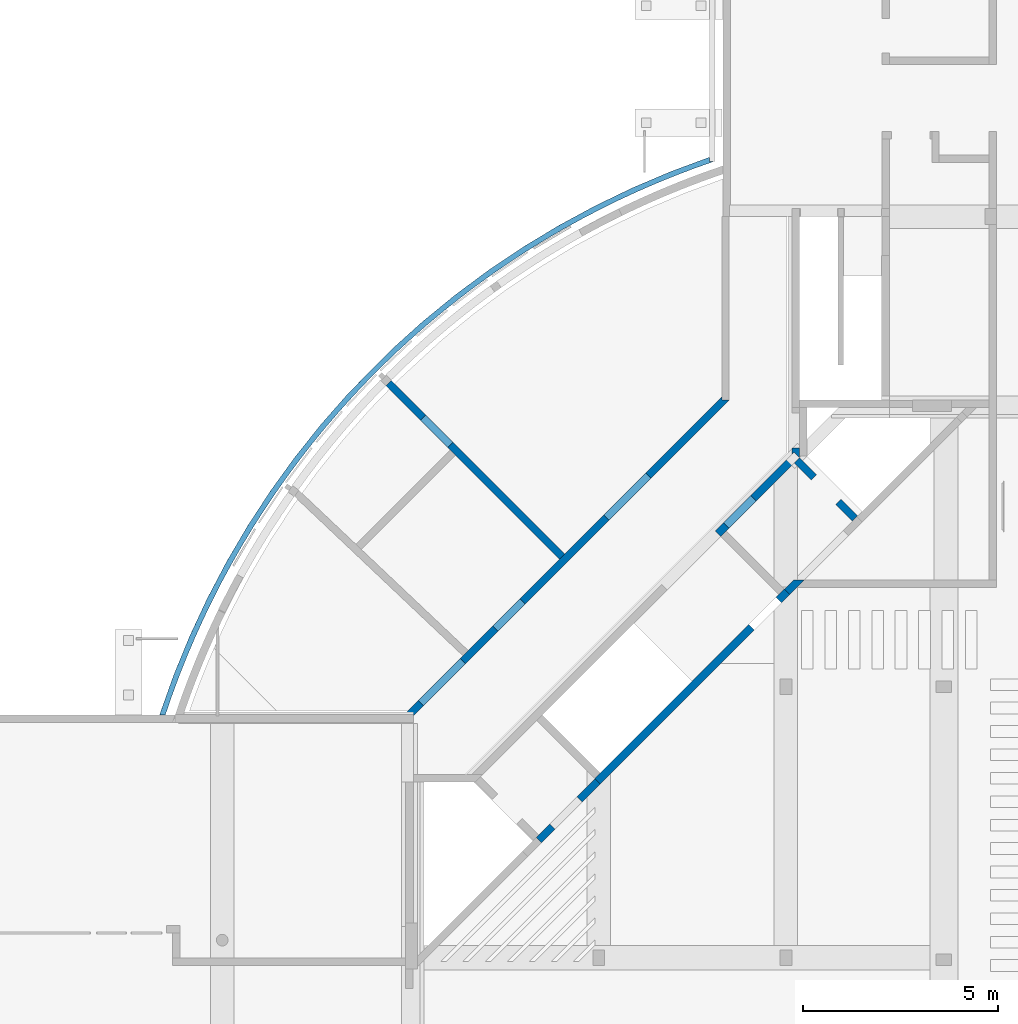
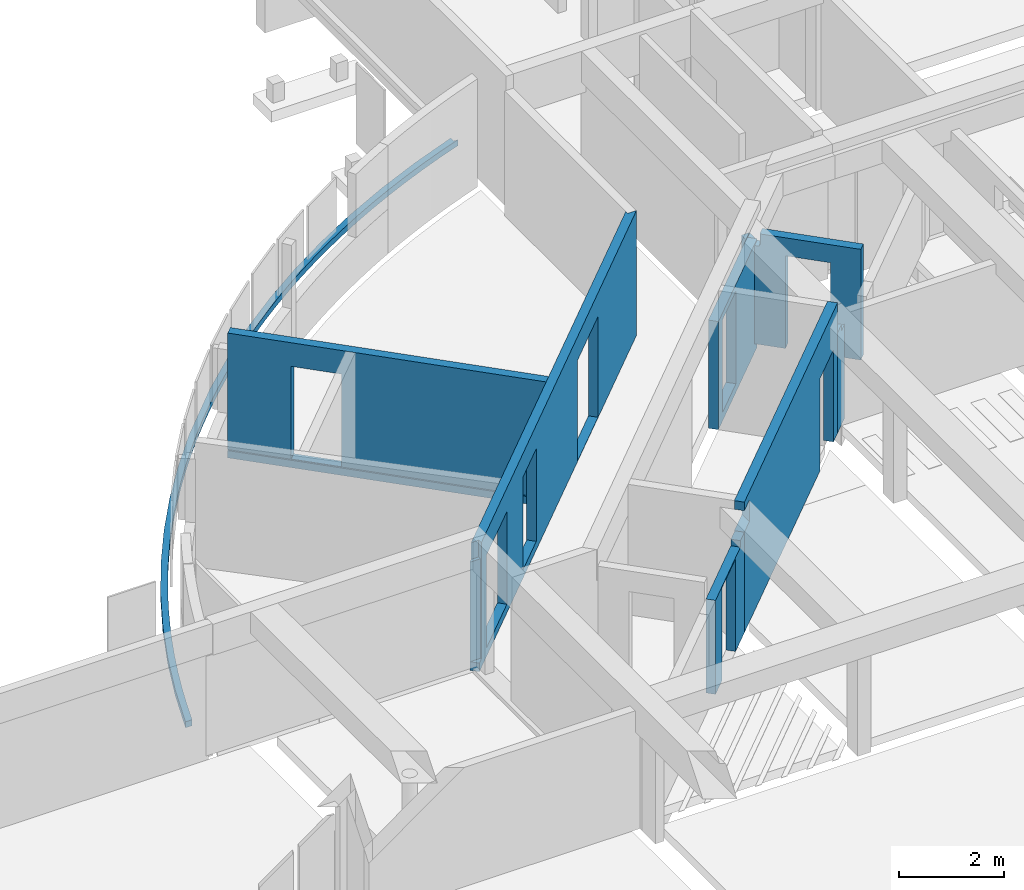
# One storey, part 20 of 22: 9 walls.
"""IFC4X3_ADD2 building model written with IfcOpenShell, lengths in millimetres."""

from ifc_helpers import new_model, si_unit, direction, frame, origin_with_axes, place, context, subcontext, project, spatial, polygons, element, save


model = new_model("IFC4X3_ADD2")

# Units and contexts
model_context = context("Model", 3, precision=1e-05, world=origin_with_axes(), true_north=direction((0.0, 1.0)))
body_context = subcontext(model_context, "Body", "Model", "MODEL_VIEW")
ifc_project = project(units=[si_unit("LENGTHUNIT", "METRE", prefix="MILLI"), si_unit("AREAUNIT", "SQUARE_METRE"), si_unit("VOLUMEUNIT", "CUBIC_METRE"), si_unit("PLANEANGLEUNIT", "RADIAN"), si_unit("TIMEUNIT", "SECOND"), si_unit("MASSUNIT", "GRAM")], contexts=[model_context])

# Site, building, storey
site_placement = place(None, origin_with_axes())
site = spatial("IfcSite", under=ifc_project, at=site_placement, Name="Site", CompositionType="ELEMENT")
building_placement = place(site_placement, origin_with_axes())
building = spatial("IfcBuilding", under=site, at=building_placement, Name="IFC Building Story")
storey_placement = place(building_placement, frame((0.0, 0.0, -3240.0), z_axis=(0.0, 0.0, 1.0), x_axis=(1.0, 0.0, 0.0)))
storey = spatial("IfcBuildingStorey", under=building, at=storey_placement, Name="K10", Elevation=-3240.0)

# Walls
wall_1_placement = place(storey_placement, frame((0.0, 0.0, 3240.0), z_axis=(0.0, 0.0, 1.0), x_axis=(1.0, 0.0, 0.0)))
element("IfcWall", 1, at=wall_1_placement, inside=storey, Name="Basic Wall:BB_XX_Wand uit beton, 200 mm", ObjectType="Basic Wall:BB_XX_Wand uit beton, 200 mm", PredefinedType="SOLIDWALL", context=body_context, shape_type="Tessellation", body=[
    polygons([(-29092.66108187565, 33950.48466862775, -3240.0), (-29304.79311623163, 33738.35263427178, -3240.0), (-29304.79311623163, 33738.35263427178, -1090.0), (-30004.82882960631, 33038.3169208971, -1090.0), (-30004.82882960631, 33038.3169208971, -3240.0), (-33950.48466862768, 29092.66108187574, -3240.0), (-33950.48466862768, 29092.66108187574, -900.0), (-33809.06331239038, 29234.08243811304, -900.0), (-33553.14575050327, 29490.00000000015, -900.0), (-33553.14575050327, 29490.00000000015, -400.0), (-33809.06331239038, 29234.08243811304, -400.0), (-33950.48466862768, 29092.66108187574, -400.0), (-33950.48466862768, 29092.66108187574, -200.0), (-33809.06331239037, 29234.08243811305, -200.0), (-29234.08243811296, 33809.06331239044, -200.0), (-29092.66108187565, 33950.48466862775, -200.0), (-29163.37175999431, 33596.93127803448, -3240.0), (-28951.23972563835, 33809.06331239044, -3240.0), (-28951.23972563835, 33809.06331239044, -200.0), (-33809.06331239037, 28951.23972563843, -200.0), (-33809.06331239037, 28951.23972563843, -400.0), (-33549.99999999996, 29210.30303802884, -400.0), (-33549.99999999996, 29210.30303802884, -900.0), (-33809.06331239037, 28951.23972563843, -900.0), (-33809.06331239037, 28951.23972563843, -3240.0), (-29863.407473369, 32896.8955646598, -3240.0), (-29863.407473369, 32896.8955646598, -1090.0), (-29163.37175999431, 33596.93127803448, -1090.0), (-33549.99999999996, 29490.00000000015, -900.0), (-33549.99999999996, 29490.00000000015, -400.0)], [[[11, 12, 13]], [[11, 13, 14]], [[14, 10, 11]], [[10, 14, 4]], [[4, 9, 10]], [[4, 5, 6]], [[4, 6, 9]], [[6, 8, 9]], [[6, 7, 8]], [[14, 15, 4]], [[15, 16, 3]], [[15, 3, 4]], [[16, 1, 2]], [[16, 2, 3]], [[23, 24, 25]], [[28, 17, 18]], [[28, 18, 19]], [[19, 27, 28]], [[23, 25, 26]], [[23, 26, 27]], [[27, 19, 22]], [[27, 22, 23]], [[19, 20, 22]], [[20, 21, 22]], [[29, 30, 10, 9]], [[8, 7, 24]], [[8, 24, 23]], [[23, 29, 9]], [[23, 9, 8]], [[30, 29, 23, 22]], [[11, 10, 30]], [[11, 30, 22]], [[22, 21, 12]], [[22, 12, 11]], [[6, 25, 24, 7]], [[2, 1, 18, 17]], [[14, 13, 20]], [[20, 19, 15]], [[20, 15, 14]], [[19, 16, 15]], [[1, 16, 19, 18]], [[3, 2, 17, 28]], [[4, 3, 28, 27]], [[5, 4, 27, 26]], [[6, 5, 26, 25]], [[20, 13, 12, 21]]]),
])
wall_2_placement = place(storey_placement, frame((0.0, 0.0, 3240.0), z_axis=(0.0, 0.0, 1.0), x_axis=(1.0, 0.0, 0.0)))
element("IfcWall", 2, at=wall_2_placement, inside=storey, Name="Basic Wall:BB_XX_Wand uit beton, 200 mm", ObjectType="Basic Wall:BB_XX_Wand uit beton, 200 mm", PredefinedType="SOLIDWALL", context=body_context, shape_type="Tessellation", body=[
    polygons([(-28900.0, 37567.28377279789, -3440.0), (-28900.0, 37395.83694396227, -3440.0), (-28900.0, 37395.83694396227, -920.0), (-28900.0, 37537.25830019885, -920.0), (-28900.0, 37567.28377279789, -920.0), (-28700.0, 37312.99423148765, -3440.0), (-28700.0, 37359.99593411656, -3440.0), (-28700.0, 37567.28377279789, -3440.0), (-28700.0, 37567.28377279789, -950.0), (-28700.0, 37359.99593411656, -950.0), (-28700.0, 37312.99423148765, -950.0), (-28841.42135623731, 37454.41558772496, -3440.0), (-28869.97452740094, 37567.2837727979, -920.0), (-28728.55317116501, 37567.28377279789, -920.0), (-28728.553171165, 37567.28377279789, -950.0), (-28841.42135623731, 37454.41558772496, -950.0), (-28841.42135623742, 37454.41558772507, -920.0)], [[[4, 5, 1]], [[1, 2, 3]], [[1, 3, 4]], [[7, 8, 9]], [[7, 9, 10]], [[10, 11, 6]], [[10, 6, 7]], [[7, 6, 12]], [[12, 2, 1]], [[1, 8, 7]], [[1, 7, 12]], [[15, 9, 8]], [[8, 1, 13]], [[8, 13, 15]], [[13, 14, 15]], [[1, 5, 13]], [[16, 15, 14]], [[16, 14, 17]], [[16, 17, 3]], [[3, 2, 12]], [[3, 12, 16]], [[12, 6, 11, 16]], [[13, 5, 4]], [[4, 17, 14]], [[4, 14, 13]], [[4, 3, 17]], [[10, 9, 15]], [[10, 15, 16]], [[16, 11, 10]]]),
])
wall_3_placement = place(storey_placement, frame((0.0, 0.0, 3240.0), z_axis=(0.0, 0.0, 1.0), x_axis=(1.0, 0.0, 0.0)))
element("IfcWall", 3, at=wall_3_placement, inside=storey, Name="Basic Wall:BB_XX_Wand uit beton, 200 mm", ObjectType="Basic Wall:BB_XX_Wand uit beton, 200 mm", PredefinedType="SOLIDWALL", context=body_context, shape_type="Tessellation", body=[
    polygons([(-28841.42135623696, 37454.41558772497, -3440.0), (-28899.99999999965, 37395.83694396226, -3440.0), (-30860.42803484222, 35435.40890911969, -3440.0), (-30860.42803484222, 35435.40890911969, -920.0), (-28899.99999999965, 37395.83694396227, -920.0), (-28841.42135623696, 37454.41558772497, -920.0), (-28841.42135623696, 37454.41558772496, -950.0), (-30648.29600048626, 35647.54094347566, -1080.0), (-30648.29600048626, 35647.54094347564, -3240.0), (-29948.26028711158, 36347.57665685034, -3240.0), (-29948.26028711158, 36347.57665685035, -1080.0), (-28699.99999999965, 37312.99423148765, -3440.0), (-28699.99999999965, 37312.99423148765, -920.0), (-30719.00667860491, 35293.98755288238, -920.0), (-30719.00667860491, 35293.98755288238, -3440.0), (-30577.5853223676, 35435.40890911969, -3440.0), (-30506.87464424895, 35506.11958723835, -1080.0), (-29806.83893087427, 36206.15530061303, -1080.0), (-29806.83893087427, 36206.15530061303, -3240.0), (-30506.87464424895, 35506.11958723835, -3240.0)], [[[7, 1, 2]], [[7, 2, 5]], [[5, 6, 7]], [[11, 8, 4]], [[11, 4, 5]], [[5, 2, 10]], [[5, 10, 11]], [[2, 3, 10]], [[3, 9, 10]], [[3, 4, 8]], [[3, 8, 9]], [[20, 17, 16]], [[16, 19, 20]], [[19, 16, 12]], [[12, 13, 18]], [[12, 18, 19]], [[13, 14, 18]], [[14, 17, 18]], [[17, 14, 15]], [[17, 15, 16]], [[2, 1, 12]], [[16, 15, 3]], [[3, 2, 12]], [[3, 12, 16]], [[4, 3, 15, 14]], [[5, 4, 14]], [[5, 14, 13]], [[13, 6, 5]], [[7, 6, 13]], [[13, 12, 1]], [[13, 1, 7]], [[9, 8, 17, 20]], [[10, 9, 20, 19]], [[11, 10, 19, 18]], [[8, 11, 18, 17]]]),
])
wall_4_placement = place(storey_placement, frame((0.0, 0.0, 3240.0), z_axis=(0.0, 0.0, 1.0), x_axis=(1.0, 0.0, 0.0)))
element("IfcWall", 4, at=wall_4_placement, inside=storey, Name="Basic Wall:BB_03.09.24#05_Wand uit metselwerk_EI60, 190 mm", ObjectType="Basic Wall:BB_03.09.24#05_Wand uit metselwerk_EI60, 190 mm", PredefinedType="SOLIDWALL", context=body_context, shape_type="Tessellation", body=[
    polygons([(-28849.00768076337, 34179.99593411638, -3240.0), (-29085.59001406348, 33943.41360081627, -3240.0), (-29085.59001406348, 33943.41360081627, -900.0), (-28877.85071255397, 34151.15290232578, -900.0), (-28877.84443866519, 34151.146628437, -1049.99999999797), (-28849.00768076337, 34179.99593411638, -1049.99999999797), (-28951.23972563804, 33809.06331239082, -3240.0), (-28770.30710391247, 33989.99593411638, -3240.0), (-28580.30710391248, 34179.99593411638, -3240.0), (-28580.30710391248, 34179.99593411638, -1049.99999999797), (-28743.49415023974, 34016.79634001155, -1049.99999999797), (-28743.50042412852, 34016.80261390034, -900.0), (-28951.23972563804, 33809.06331239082, -900.0), (-28750.00000000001, 34023.30218977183, -900.0)], [[[5, 6, 1]], [[1, 2, 3]], [[1, 3, 5]], [[3, 4, 5]], [[11, 12, 8]], [[8, 9, 10]], [[8, 10, 11]], [[12, 13, 7]], [[12, 7, 8]], [[8, 7, 2]], [[8, 2, 1]], [[1, 9, 8]], [[3, 2, 7, 13]], [[14, 4, 3]], [[14, 3, 13]], [[13, 12, 14]], [[9, 1, 6, 10]], [[14, 12, 11]], [[11, 5, 4]], [[11, 4, 14]], [[5, 11, 10, 6]]]),
])
wall_5_placement = place(storey_placement, frame((0.0, 0.0, 3240.0), z_axis=(0.0, 0.0, 1.0), x_axis=(1.0, 0.0, 0.0)))
element("IfcWall", 5, at=wall_5_placement, inside=storey, Name="Basic Wall:BB_03.09.24#05_Wand uit metselwerk_EI60, 190 mm", ObjectType="Basic Wall:BB_03.09.24#05_Wand uit metselwerk_EI60, 190 mm", PredefinedType="SOLIDWALL", context=body_context, shape_type="Tessellation", body=[
    polygons([(-27349.90220101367, 35694.19585565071, -3240.0), (-27349.90220101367, 35694.19585565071, -660.0), (-28749.99999999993, 37094.29365463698, -660.0), (-28749.99999999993, 37094.29365463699, -900.0), (-28763.63961030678, 37107.93326494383, -900.0), (-28763.63961030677, 37107.93326494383, -950.0), (-28834.35028842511, 37178.64394306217, -950.0), (-28834.35028842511, 37178.64394306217, -3240.0), (-28403.49130498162, 36747.78495961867, -3240.0), (-28403.49130498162, 36747.78495961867, -1080.0), (-27774.16626972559, 36118.45992436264, -1080.0), (-27774.16626972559, 36118.45992436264, -3240.0), (-27215.55191258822, 35828.54614407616, -660.0), (-27215.55191258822, 35828.54614407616, -3240.0), (-27639.81598130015, 36252.81021278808, -3240.0), (-27639.81598130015, 36252.81021278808, -1080.0), (-28269.14101655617, 36882.13524804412, -1080.0), (-28269.14101655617, 36882.13524804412, -3240.0), (-28699.99999999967, 37312.99423148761, -3240.0), (-28699.99999999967, 37312.99423148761, -950.0), (-28629.28932188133, 37242.28355336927, -950.0), (-28629.28932188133, 37242.28355336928, -660.0), (-28749.99999999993, 37121.57287525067, -660.0), (-28749.99999999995, 37121.57287525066, -900.0)], [[[6, 7, 8]], [[8, 4, 6]], [[4, 5, 6]], [[11, 12, 1]], [[11, 1, 2]], [[2, 3, 10]], [[2, 10, 11]], [[4, 8, 9]], [[4, 9, 10]], [[10, 3, 4]], [[21, 22, 17]], [[17, 18, 19]], [[17, 19, 20]], [[17, 20, 21]], [[22, 13, 16]], [[22, 16, 17]], [[13, 14, 15]], [[13, 15, 16]], [[8, 19, 18, 9]], [[2, 1, 14, 13]], [[2, 13, 22]], [[2, 22, 23]], [[2, 23, 3]], [[19, 8, 7, 20]], [[10, 17, 16, 11]], [[11, 16, 15, 12]], [[17, 10, 9, 18]], [[6, 21, 20, 7]], [[24, 23, 22]], [[24, 22, 21]], [[21, 6, 24]], [[6, 5, 24]], [[4, 24, 5]], [[24, 4, 3, 23]], [[14, 1, 12, 15]]]),
])
wall_6_placement = place(storey_placement, frame((0.0, 0.0, 3240.0), z_axis=(0.0, 0.0, 1.0), x_axis=(1.0, 0.0, 0.0)))
element("IfcWall", 6, at=wall_6_placement, inside=storey, Name="Basic Wall:BB_03.09.24#05_Wand uit metselwerk_EI60, 190 mm", ObjectType="Basic Wall:BB_03.09.24#05_Wand uit metselwerk_EI60, 190 mm", PredefinedType="SOLIDWALL", context=body_context, shape_type="Tessellation", body=[
    polygons([(-38700.00000000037, 30600.00000000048, -3440.0), (-30505.00000000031, 38795.00000000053, -3440.0), (-30505.00000000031, 38795.00000000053, -530.0), (-38598.89856788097, 30701.10143211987, -530.0), (-38598.89856788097, 30701.10143211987, -920.0), (-38600.00000000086, 30699.99999999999, -920.0), (-38600.00000000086, 30699.99999999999, -3239.999999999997), (-38700.00000000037, 30600.00000000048, -3239.999999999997), (-38339.30924965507, 30960.69075034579, -1080.0), (-37264.50694225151, 32035.49305774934, -1080.0), (-37264.50694225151, 32035.49305774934, -3239.999999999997), (-38339.30924965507, 30960.69075034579, -3239.999999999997), (-33585.80429431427, 35714.19570568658, -1080.0), (-32511.00198691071, 36788.99801309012, -1080.0), (-32511.00198691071, 36788.99801309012, -3429.999999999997), (-33585.80429431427, 35714.19570568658, -3429.999999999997), (-36432.5412452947, 32867.4587547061, -1080.0), (-35732.50553192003, 33567.49446808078, -1080.0), (-35732.50553192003, 33567.49446808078, -3239.999999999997), (-36432.5412452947, 32867.4587547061, -3239.999999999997), (-30695.00000000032, 38873.70057685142, -3440.0), (-37193.74386254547, 32374.95671430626, -3440.0), (-37328.1465525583, 32240.55402429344, -3440.0), (-38834.35028842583, 30734.35028842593, -3440.0), (-38834.35028842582, 30734.35028842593, -920.0), (-38768.70057685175, 30799.99999999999, -920.0), (-38768.70057685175, 30799.99999999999, -530.0), (-37328.14655255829, 32240.55402429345, -530.0), (-37193.74386254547, 32374.95671430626, -530.0), (-30695.00000000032, 38873.70057685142, -530.0), (-37398.85723067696, 32169.84334617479, -1080.0), (-38473.65953808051, 31095.04103877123, -1080.0), (-38473.65953808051, 31095.04103877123, -3239.999999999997), (-37398.85723067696, 32169.84334617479, -3239.999999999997), (-32645.35227533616, 36923.34830151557, -1080.0), (-33720.15458273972, 35848.54599411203, -1080.0), (-33720.15458273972, 35848.54599411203, -3429.999999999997), (-32645.35227533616, 36923.34830151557, -3429.999999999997), (-35866.85582034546, 33701.84475650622, -1080.0), (-36566.89153372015, 33001.80904313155, -1080.0), (-36566.89153372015, 33001.80904313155, -3239.999999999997), (-35866.85582034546, 33701.84475650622, -3239.999999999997), (-30695.00000000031, 38799.99593411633, -3440.0), (-30509.99593411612, 38799.99593411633, -3440.0), (-30509.99593411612, 38799.99593411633, -530.0), (-30695.00000000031, 38799.99593411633, -530.0), (-38598.89856788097, 30799.99999999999, -530.0), (-38829.99999999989, 30730.0, -3239.999999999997), (-38829.99999999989, 30730.00000000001, -920.0), (-38600.00000000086, 30730.0, -3239.999999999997), (-38600.00000000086, 30730.0, -920.0), (-38598.89856788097, 30799.99999999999, -920.0)], [[[7, 8, 1]], [[7, 1, 12]], [[12, 9, 5]], [[12, 5, 6]], [[12, 6, 7]], [[1, 11, 12]], [[13, 3, 4]], [[11, 1, 20]], [[20, 17, 10]], [[20, 10, 11]], [[1, 19, 20]], [[1, 16, 19]], [[16, 13, 18]], [[16, 18, 19]], [[18, 13, 4]], [[4, 17, 18]], [[1, 15, 16]], [[1, 2, 15]], [[2, 3, 14]], [[2, 14, 15]], [[3, 13, 14]], [[10, 17, 4]], [[4, 5, 9]], [[4, 9, 10]], [[38, 35, 30]], [[38, 30, 21]], [[21, 37, 38]], [[28, 29, 31]], [[31, 32, 26]], [[31, 26, 27]], [[31, 27, 28]], [[34, 31, 23]], [[23, 24, 33]], [[23, 33, 34]], [[24, 25, 26]], [[24, 26, 32]], [[24, 32, 33]], [[39, 29, 36]], [[37, 21, 22]], [[42, 39, 36]], [[42, 36, 37]], [[37, 22, 42]], [[22, 41, 42]], [[22, 23, 31]], [[22, 31, 29]], [[22, 29, 40]], [[22, 40, 41]], [[29, 39, 40]], [[29, 30, 36]], [[30, 35, 36]], [[43, 44, 2]], [[43, 2, 22]], [[22, 21, 43]], [[2, 23, 22]], [[2, 1, 23]], [[1, 24, 23]], [[3, 2, 44, 45]], [[46, 30, 29]], [[47, 4, 28]], [[28, 27, 47]], [[4, 29, 28]], [[29, 4, 3]], [[3, 45, 46]], [[3, 46, 29]], [[48, 49, 25]], [[25, 24, 48]], [[24, 1, 8]], [[24, 8, 48]], [[9, 32, 31, 10]], [[10, 31, 34, 11]], [[11, 34, 33, 12]], [[32, 9, 12, 33]], [[13, 36, 35, 14]], [[14, 35, 38, 15]], [[15, 38, 37, 16]], [[36, 13, 16, 37]], [[39, 18, 17, 40]], [[40, 17, 20, 41]], [[41, 20, 19, 42]], [[18, 39, 42, 19]], [[46, 43, 21, 30]], [[43, 46, 45, 44]], [[50, 51, 49, 48]], [[50, 48, 8, 7]], [[51, 50, 7, 6]], [[47, 52, 5, 4]], [[51, 6, 5]], [[51, 5, 52]], [[52, 26, 25]], [[52, 25, 49]], [[52, 49, 51]], [[52, 47, 27, 26]]]),
])
wall_7_placement = place(storey_placement, frame((0.0, 0.0, 3240.0), z_axis=(0.0, 0.0, 1.0), x_axis=(1.0, 0.0, 0.0)))
element("IfcWall", 7, at=wall_7_placement, inside=storey, Name="Basic Wall:BB_03.09.24#05_Wand uit metselwerk_EI60, 190 mm", ObjectType="Basic Wall:BB_03.09.24#05_Wand uit metselwerk_EI60, 190 mm", PredefinedType="SOLIDWALL", context=body_context, shape_type="Tessellation", body=[
    polygons([(-35449.55104474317, 27579.45257013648, -3240.0), (-35449.55104474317, 27579.45257013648, -1050.0), (-34151.15290232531, 28877.85071255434, -1050.0), (-34151.15290232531, 28877.85071255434, -900.0), (-33943.41360081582, 29085.59001406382, -900.0), (-33943.41360081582, 29085.59001406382, -3240.0), (-34403.77020890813, 28625.23340597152, -3240.0), (-34403.76393501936, 28625.22713208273, -1080.0), (-35103.79964839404, 27925.19141870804, -1080.0), (-35103.80592228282, 27925.19769259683, -3240.0), (-35315.20075631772, 27445.10228171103, -1050.0), (-35315.20075631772, 27445.10228171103, -3240.0), (-34969.45563385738, 27790.84740417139, -3240.0), (-34969.4493599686, 27790.84113028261, -1080.0), (-34269.41364659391, 28490.87684365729, -1080.0), (-34269.41992048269, 28490.88311754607, -3240.0), (-33809.06331239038, 28951.23972563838, -3240.0), (-33809.06331239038, 28951.23972563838, -900.0), (-34016.80261389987, 28743.50042412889, -900.0), (-34016.80261389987, 28743.50042412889, -1050.0), (-34149.99999999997, 28876.697810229, -900.0)], [[[3, 4, 5]], [[9, 10, 1]], [[9, 1, 2]], [[2, 8, 9]], [[2, 3, 8]], [[3, 5, 6]], [[6, 7, 8]], [[6, 8, 3]], [[20, 15, 16]], [[20, 16, 17]], [[17, 18, 20]], [[18, 19, 20]], [[20, 14, 15]], [[20, 11, 14]], [[11, 12, 13]], [[11, 13, 14]], [[6, 17, 16, 7]], [[2, 1, 12, 11]], [[3, 2, 11, 20]], [[6, 5, 18, 17]], [[14, 9, 8, 15]], [[15, 8, 7, 16]], [[9, 14, 13, 10]], [[21, 4, 3]], [[3, 20, 19]], [[3, 19, 21]], [[21, 19, 18]], [[21, 18, 5]], [[5, 4, 21]], [[12, 1, 10, 13]]]),
])
wall_8_placement = place(storey_placement, frame((0.0, 0.0, 3240.0), z_axis=(0.0, 0.0, 1.0), x_axis=(1.0, 0.0, 0.0)))
element("IfcWall", 8, at=wall_8_placement, inside=storey, Name="Basic Wall:BB_03.02.31_Ondergronds metselwerk, 140 mm", ObjectType="Basic Wall:BB_03.02.31_Ondergronds metselwerk, 140 mm", PredefinedType="SOLIDWALL", context=body_context, shape_type="Tessellation", body=[
    polygons([(-41827.82544879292, 36841.13075863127, -2439.999999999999), (-41511.47389416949, 37267.11421232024, -2439.999999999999), (-41185.13008975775, 37685.49194864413, -2439.999999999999), (-40848.97682225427, 38096.02963226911, -2439.999999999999), (-40503.20237268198, 38498.49731911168, -2439.999999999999), (-40148.000410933, 38892.6695851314, -2439.999999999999), (-39783.56988729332, 39278.32565259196, -2439.999999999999), (-39410.11492100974, 39655.24951371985, -2439.999999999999), (-39027.8446859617, 40023.23005169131, -2439.999999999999), (-38636.97329350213, 40382.06115887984, -2439.999999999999), (-38237.71967253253, 40731.5418522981, -2439.999999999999), (-37830.30744687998, 41071.4763861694, -2439.999999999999), (-37414.96481004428, 41401.6743615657, -2439.999999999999), (-36991.92439738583, 41721.9508330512, -2439.999999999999), (-36561.42315582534, 42032.126412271, -2439.999999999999), (-36123.70221112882, 42332.0273684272, -2439.999999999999), (-35679.00673285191, 42621.4857255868, -2439.999999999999), (-35227.58579701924, 42900.3393567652, -2439.999999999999), (-34769.6922466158, 43168.4320747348, -2439.999999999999), (-34305.5825499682, 43425.613719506, -2439.999999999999), (-33835.5166570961, 43671.7402424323, -2439.999999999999), (-33359.7578541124, 43906.6737868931, -2439.999999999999), (-32878.5726157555, 44130.2827655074, -2439.999999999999), (-32392.2304561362, 44342.4419338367, -2439.999999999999), (-31901.0037777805, 44543.0324605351, -2439.999999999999), (-31405.1677190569, 44731.9419939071, -2439.999999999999), (-30905.0000000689, 44909.0647248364, -2439.999999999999), (-31005.0000000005, 44909.0647248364, -2439.999999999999), (-31005.0000000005, 45022.8094106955, -2439.999999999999), (-31505.3554917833, 44837.4756254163, -2439.999999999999), (-32005.710983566, 44652.141840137, -2439.999999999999), (-32496.7452641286, 44443.3524141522, -2439.999999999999), (-32987.77954469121, 44234.5629881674, -2439.999999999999), (-33468.39081495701, 44002.7861602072, -2439.999999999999), (-33949.0020852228, 43771.0093322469, -2439.999999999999), (-34418.1149329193, 43516.7637241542, -2439.999999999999), (-34887.2277806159, 43262.5181160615, -2439.999999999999), (-35343.7925222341, 42986.372625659, -2439.999999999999), (-35800.35726385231, 42710.2271352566, -2439.999999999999), (-36243.35229341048, 42412.7996633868, -2439.999999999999), (-36686.34732296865, 42115.372191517, -2439.999999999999), (-37114.78139795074, 41797.3282594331, -2439.999999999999), (-37543.21547293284, 41479.2843273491, -2439.999999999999), (-37956.12993228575, 41141.3355875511, -2439.999999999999), (-38369.04439163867, 40803.3868477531, -2439.999999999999), (-38765.51530086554, 40446.28949160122, -2439.999999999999), (-39161.98621009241, 40089.19213544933, -2439.999999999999), (-39723.93084860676, 39519.40161939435, -2439.999999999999), (-40285.8754871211, 38949.61110333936, -2439.999999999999), (-40637.44163172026, 38548.22730306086, -2439.999999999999), (-40989.00777631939, 38146.84350278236, -2439.999999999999), (-41321.19916474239, 37729.28321627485, -2439.999999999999), (-41653.39055316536, 37311.72292976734, -2439.999999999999), (-41965.4638761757, 36878.92048665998, -2439.999999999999), (-42277.53719918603, 36446.11804355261, -2439.999999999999), (-42568.79416356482, 35999.04187922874, -2439.999999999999), (-42860.05112794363, 35551.96571490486, -2439.999999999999), (-43129.84001898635, 35091.6162035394, -2439.999999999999), (-43399.62891002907, 34631.26669217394, -2439.999999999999), (-43647.34604981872, 34158.67390830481, -2439.999999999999), (-43895.06318960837, 33686.08112443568, -2439.999999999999), (-44120.15428780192, 33202.3025380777, -2439.999999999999), (-44345.24538599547, 32718.52395171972, -2439.999999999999), (-44547.20678010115, 32224.64206217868, -2439.999999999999), (-44749.16817420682, 31730.76017263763, -2439.999999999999), (-44886.78729320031, 31342.79067565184, -2439.999999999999), (-45105.92773894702, 30725.00000000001, -2439.999999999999), (-44958.5263481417, 30724.99999999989, -2439.999999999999), (-44786.03549752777, 31226.78393296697, -2439.999999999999), (-44601.71829980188, 31724.34536590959, -2439.999999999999), (-44405.67799189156, 32217.40561233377, -2439.999999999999), (-44198.02437689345, 32705.68850688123, -2439.999999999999), (-43978.87376257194, 33188.92056001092, -2439.999999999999), (-43748.34889621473, 33666.83111118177, -2439.999999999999), (-43506.57889588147, 34139.15248045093, -2439.999999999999), (-43253.69917808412, 34605.62011840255, -2439.999999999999), (-42989.85138193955, 35065.9727543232, -2439.999999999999), (-42715.18328983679, 35519.95254254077, -2439.999999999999), (-42429.84874466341, 35967.30520684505, -2439.999999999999), (-42134.00756363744, 36407.78018290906, -2439.999999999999), (-31005.0000000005, 44909.0647248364, -2580.0), (-30905.000000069, 44909.0647248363, -2580.0), (-31405.1677190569, 44731.9419939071, -2580.0), (-31901.0037777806, 44543.0324605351, -2580.0), (-32392.2304561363, 44342.4419338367, -2580.0), (-32878.57261575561, 44130.2827655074, -2580.0), (-33359.7578541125, 43906.6737868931, -2580.0), (-33835.5166570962, 43671.7402424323, -2580.0), (-34305.5825499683, 43425.6137195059, -2580.0), (-34769.6922466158, 43168.4320747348, -2580.0), (-35227.58579701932, 42900.3393567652, -2580.0), (-35679.006732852, 42621.4857255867, -2580.0), (-36123.7022111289, 42332.0273684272, -2580.0), (-36561.42315582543, 42032.1264122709, -2580.0), (-36991.92439738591, 41721.9508330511, -2580.0), (-37414.96481004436, 41401.6743615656, -2580.0), (-37830.30744688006, 41071.4763861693, -2580.0), (-38237.71967253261, 40731.541852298, -2580.0), (-38636.97329350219, 40382.06115887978, -2580.0), (-39027.84468596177, 40023.23005169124, -2580.0), (-39410.11492100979, 39655.24951371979, -2580.0), (-39783.56988729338, 39278.3256525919, -2580.0), (-40148.00041093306, 38892.66958513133, -2580.0), (-40503.20237268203, 38498.49731911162, -2580.0), (-40848.97682225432, 38096.02963226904, -2580.0), (-41185.1300897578, 37685.49194864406, -2580.0), (-41511.47389416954, 37267.11421232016, -2580.0), (-41827.82544879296, 36841.1307586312, -2580.0), (-42134.00756363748, 36407.78018290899, -2580.0), (-42429.84874466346, 35967.30520684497, -2580.0), (-42715.18328983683, 35519.95254254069, -2580.0), (-42989.85138193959, 35065.97275432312, -2580.0), (-43253.69917808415, 34605.62011840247, -2580.0), (-43506.5788958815, 34139.15248045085, -2580.0), (-43748.34889621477, 33666.83111118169, -2580.0), (-43978.87376257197, 33188.92056001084, -2580.0), (-44198.02437689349, 32705.68850688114, -2580.0), (-44405.67799189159, 32217.40561233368, -2580.0), (-44601.71829980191, 31724.34536590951, -2580.0), (-44786.03549752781, 31226.78393296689, -2580.0), (-44958.52634814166, 30725.00000000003, -2580.0), (-45105.92773894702, 30725.00000000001, -2580.0), (-45100.17323409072, 30742.50390668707, -2580.0), (-45094.40342410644, 30760.00584476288, -2580.0), (-44915.54301822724, 31261.70525851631, -2580.0), (-44736.68057956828, 31763.41050468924, -2580.0), (-44534.33364727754, 32256.11363794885, -2580.0), (-44331.98671498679, 32748.81677120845, -2580.0), (-44106.60667382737, 33231.4185677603, -2580.0), (-43881.22663266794, 33714.02036431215, -2580.0), (-43633.31600771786, 34185.44477768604, -2580.0), (-43385.4053827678, 34656.86919105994, -2580.0), (-43115.51693504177, 35116.06509675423, -2580.0), (-42845.62848731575, 35575.26100244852, -2580.0), (-42554.3639812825, 36021.20454160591, -2580.0), (-42263.09947524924, 36467.1480807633, -2580.0), (-41951.10833709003, 36898.84494304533, -2580.0), (-41639.11719893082, 37330.54180532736, -2580.0), (-41307.09506852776, 37747.02944590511, -2580.0), (-40975.07293812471, 38163.51708648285, -2580.0), (-40623.76011800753, 38563.86687220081, -2580.0), (-40272.44729789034, 38964.21665791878, -2580.0), (-39711.03285824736, 39532.54051513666, -2580.0), (-39149.61841860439, 40100.86437235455, -2580.0), (-38753.59564324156, 40457.04776153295, -2580.0), (-38357.57286787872, 40813.2311507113, -2580.0), (-37945.17749415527, 41150.3226810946, -2580.0), (-37532.78212043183, 41487.4142114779, -2580.0), (-37104.93365725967, 41804.6622776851, -2580.0), (-36677.08519408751, 42121.9103438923, -2580.0), (-36234.73760577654, 42418.6075850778, -2580.0), (-35792.39001746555, 42715.3048262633, -2580.0), (-35336.5295966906, 42990.7897033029, -2580.0), (-34880.6691759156, 43266.2745803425, -2580.0), (-34412.3123446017, 43519.9328508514, -2580.0), (-33943.9555132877, 43773.5911213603, -2580.0), (-33464.1465563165, 44004.8572092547, -2580.0), (-32984.3375993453, 44236.1232971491, -2580.0), (-32494.1463361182, 44444.4815537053, -2580.0), (-32003.955072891, 44652.8398102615, -2580.0), (-31504.4775364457, 44837.8246104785, -2580.0), (-31005.0000000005, 45022.8094106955, -2580.0), (-45105.92773894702, 30725.00000000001, -2499.999999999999)], [[[28, 29, 30]], [[28, 30, 26]], [[26, 27, 28]], [[30, 31, 25]], [[30, 25, 26]], [[31, 32, 24]], [[31, 24, 25]], [[32, 33, 23]], [[32, 23, 24]], [[33, 34, 22]], [[33, 22, 23]], [[34, 35, 21]], [[34, 21, 22]], [[35, 36, 20]], [[35, 20, 21]], [[36, 37, 19]], [[36, 19, 20]], [[37, 38, 18]], [[37, 18, 19]], [[38, 39, 17]], [[38, 17, 18]], [[39, 40, 16]], [[39, 16, 17]], [[40, 41, 15]], [[40, 15, 16]], [[41, 42, 14]], [[41, 14, 15]], [[42, 43, 13]], [[42, 13, 14]], [[43, 44, 12]], [[43, 12, 13]], [[44, 45, 11]], [[44, 11, 12]], [[45, 46, 10]], [[45, 10, 11]], [[46, 47, 9]], [[46, 9, 10]], [[47, 48, 8]], [[47, 8, 9]], [[48, 7, 8]], [[48, 49, 6]], [[48, 6, 7]], [[49, 50, 5]], [[49, 5, 6]], [[50, 51, 4]], [[50, 4, 5]], [[51, 52, 3]], [[51, 3, 4]], [[52, 53, 2]], [[52, 2, 3]], [[53, 54, 1]], [[53, 1, 2]], [[66, 67, 68]], [[66, 68, 69]], [[69, 70, 65]], [[69, 65, 66]], [[70, 71, 64]], [[70, 64, 65]], [[71, 72, 63]], [[71, 63, 64]], [[72, 73, 62]], [[72, 62, 63]], [[73, 74, 61]], [[73, 61, 62]], [[74, 75, 60]], [[74, 60, 61]], [[75, 76, 59]], [[75, 59, 60]], [[76, 77, 58]], [[76, 58, 59]], [[77, 78, 57]], [[77, 57, 58]], [[78, 79, 56]], [[78, 56, 57]], [[79, 80, 55]], [[79, 55, 56]], [[80, 1, 54]], [[80, 54, 55]], [[81, 82, 83]], [[124, 125, 120]], [[124, 120, 121]], [[121, 123, 124]], [[121, 122, 123]], [[125, 126, 119]], [[125, 119, 120]], [[126, 127, 118]], [[126, 118, 119]], [[127, 128, 117]], [[127, 117, 118]], [[128, 129, 116]], [[128, 116, 117]], [[129, 130, 115]], [[129, 115, 116]], [[130, 131, 114]], [[130, 114, 115]], [[131, 132, 113]], [[131, 113, 114]], [[132, 133, 112]], [[132, 112, 113]], [[133, 134, 111]], [[133, 111, 112]], [[134, 135, 110]], [[134, 110, 111]], [[135, 136, 109]], [[135, 109, 110]], [[136, 137, 108]], [[136, 108, 109]], [[137, 138, 107]], [[137, 107, 108]], [[138, 139, 106]], [[138, 106, 107]], [[139, 140, 105]], [[139, 105, 106]], [[140, 141, 104]], [[140, 104, 105]], [[141, 142, 103]], [[141, 103, 104]], [[142, 143, 102]], [[142, 102, 103]], [[143, 101, 102]], [[143, 144, 100]], [[143, 100, 101]], [[144, 145, 99]], [[144, 99, 100]], [[145, 146, 98]], [[145, 98, 99]], [[146, 147, 97]], [[146, 97, 98]], [[147, 148, 96]], [[147, 96, 97]], [[148, 149, 95]], [[148, 95, 96]], [[149, 150, 94]], [[149, 94, 95]], [[150, 151, 93]], [[150, 93, 94]], [[151, 152, 92]], [[151, 92, 93]], [[152, 153, 91]], [[152, 91, 92]], [[153, 154, 90]], [[153, 90, 91]], [[154, 155, 89]], [[154, 89, 90]], [[155, 156, 88]], [[155, 88, 89]], [[156, 157, 87]], [[156, 87, 88]], [[157, 158, 86]], [[157, 86, 87]], [[158, 159, 85]], [[158, 85, 86]], [[159, 160, 84]], [[159, 84, 85]], [[160, 161, 83]], [[160, 83, 84]], [[161, 162, 81]], [[161, 81, 83]], [[154, 36, 155]], [[140, 50, 141]], [[158, 32, 159]], [[157, 156, 34]], [[152, 38, 153]], [[46, 145, 144]], [[126, 65, 64]], [[148, 42, 149]], [[59, 131, 60]], [[130, 61, 60]], [[146, 44, 147]], [[40, 151, 150]], [[63, 127, 64]], [[49, 142, 141]], [[49, 48, 142]], [[160, 31, 30]], [[160, 30, 161]], [[160, 159, 31]], [[142, 48, 143]], [[47, 144, 143]], [[157, 33, 158]], [[163, 67, 66]], [[155, 35, 156]], [[153, 37, 154]], [[158, 33, 32]], [[35, 155, 36]], [[39, 152, 151]], [[149, 41, 150]], [[33, 157, 34]], [[156, 35, 34]], [[147, 43, 148]], [[31, 159, 32]], [[146, 145, 45]], [[154, 37, 36]], [[47, 143, 48]], [[134, 56, 135]], [[53, 137, 54]], [[138, 52, 139]], [[128, 63, 62]], [[57, 133, 58]], [[137, 136, 54]], [[132, 58, 133]], [[132, 59, 58]], [[126, 125, 66]], [[134, 57, 56]], [[162, 161, 29]], [[163, 124, 123]], [[128, 62, 129]], [[51, 139, 52]], [[138, 53, 52]], [[126, 64, 127]], [[131, 130, 60]], [[55, 135, 56]], [[136, 55, 54]], [[163, 123, 122]], [[37, 153, 38]], [[51, 140, 139]], [[138, 137, 53]], [[55, 136, 135]], [[148, 43, 42]], [[45, 145, 46]], [[49, 141, 50]], [[144, 47, 46]], [[132, 131, 59]], [[133, 57, 134]], [[130, 129, 61]], [[146, 45, 44]], [[127, 63, 128]], [[65, 126, 66]], [[39, 151, 40]], [[150, 41, 40]], [[125, 124, 163]], [[43, 147, 44]], [[66, 125, 163]], [[41, 149, 42]], [[29, 161, 30]], [[140, 51, 50]], [[61, 129, 62]], [[152, 39, 38]], [[72, 117, 116, 73]], [[74, 115, 114, 75]], [[74, 73, 116, 115]], [[75, 114, 113, 76]], [[69, 68, 121, 120]], [[71, 70, 119, 118]], [[120, 119, 70, 69]], [[71, 118, 117, 72]], [[77, 76, 113, 112]], [[3, 2, 107, 106]], [[5, 4, 105, 104]], [[106, 105, 4, 3]], [[6, 5, 104, 103]], [[79, 78, 111, 110]], [[109, 108, 1, 80]], [[79, 110, 109, 80]], [[2, 1, 108, 107]], [[78, 77, 112, 111]], [[7, 6, 103, 102]], [[102, 101, 8, 7]], [[12, 97, 96, 13]], [[14, 95, 94, 15]], [[14, 13, 96, 95]], [[15, 94, 93, 16]], [[9, 8, 101, 100]], [[11, 10, 99, 98]], [[100, 99, 10, 9]], [[11, 98, 97, 12]], [[17, 16, 93, 92]], [[23, 22, 87, 86]], [[25, 24, 85, 84]], [[86, 85, 24, 23]], [[26, 25, 84, 83]], [[19, 18, 91, 90]], [[89, 88, 21, 20]], [[19, 90, 89, 20]], [[22, 21, 88, 87]], [[18, 17, 92, 91]], [[27, 26, 83, 82]], [[163, 122, 121]], [[163, 121, 68]], [[68, 67, 163]], [[28, 81, 162, 29]], [[81, 28, 27, 82]]]),
])
wall_9_placement = place(storey_placement, frame((0.0, 0.0, 3240.0), z_axis=(0.0, 0.0, 1.0), x_axis=(1.0, 0.0, 0.0)))
element("IfcWall", 9, at=wall_9_placement, inside=storey, Name="Basic Wall:BB_03.09.24#03_Wand uit metselwerk, 190 mm", ObjectType="Basic Wall:BB_03.09.24#03_Wand uit metselwerk, 190 mm", PredefinedType="SOLIDWALL", context=body_context, shape_type="Tessellation", body=[
    polygons([(-34851.52543265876, 34717.17514419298, -3440.0), (-34851.52543265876, 34717.17514419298, -530.0), (-37518.34168201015, 37383.99139354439, -530.0), (-37652.6919704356, 37518.34168196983, -530.0), (-39301.42095578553, 39167.07066731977, -530.0), (-39301.42095578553, 39167.07066731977, -3245.0), (-34852.04581466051, 34717.69552619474, -3245.0), (-34852.04581466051, 34717.69552619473, -3270.0), (-39301.42095578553, 39167.07066731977, -3270.0), (-39301.42095578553, 39167.07066731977, -3440.0), (-37652.6919704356, 37518.34168196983, -3440.0), (-37518.34168201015, 37383.99139354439, -3440.0), (-38414.24597377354, 38279.89568530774, -1080.0), (-37714.21026039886, 37579.85997193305, -1080.0), (-37714.21026039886, 37579.85997193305, -3239.999999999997), (-38414.24597377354, 38279.89568530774, -3239.999999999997), (-34717.17514423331, 34851.52543261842, -3440.0), (-39167.07066736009, 39301.42095574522, -3440.0), (-39167.07066736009, 39301.42095574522, -3270.0), (-34717.69552623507, 34852.04581462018, -3270.0), (-34717.69552623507, 34852.04581462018, -3245.0), (-39167.07066736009, 39301.42095574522, -3245.0), (-39167.07066736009, 39301.42095574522, -530.0), (-34717.17514423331, 34851.52543261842, -530.0), (-37579.85997197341, 37714.21026035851, -1080.0), (-38279.89568534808, 38414.24597373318, -1080.0), (-38279.89568534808, 38414.24597373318, -3239.999999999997), (-37579.85997197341, 37714.21026035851, -3239.999999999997)], [[[12, 1, 8]], [[8, 11, 12]], [[8, 9, 11]], [[9, 10, 11]], [[1, 7, 8]], [[3, 4, 13]], [[3, 13, 14]], [[13, 4, 5]], [[5, 6, 16]], [[5, 16, 13]], [[6, 15, 16]], [[7, 1, 2]], [[15, 6, 7]], [[7, 2, 3]], [[7, 3, 14]], [[7, 14, 15]], [[25, 23, 24]], [[24, 21, 28]], [[24, 28, 25]], [[21, 27, 28]], [[21, 22, 27]], [[22, 23, 26]], [[22, 26, 27]], [[23, 25, 26]], [[24, 20, 21]], [[24, 17, 20]], [[17, 18, 19]], [[17, 19, 20]], [[11, 10, 18]], [[18, 12, 11]], [[12, 18, 17]], [[17, 1, 12]], [[2, 1, 17, 24]], [[3, 2, 24]], [[24, 4, 3]], [[24, 23, 4]], [[23, 5, 4]], [[18, 10, 9, 19]], [[13, 26, 25, 14]], [[14, 25, 28, 15]], [[15, 28, 27, 16]], [[26, 13, 16, 27]], [[8, 20, 19, 9]], [[21, 7, 6, 22]], [[20, 8, 7, 21]], [[5, 23, 22, 6]]]),
])

save(model, "model.ifc")
